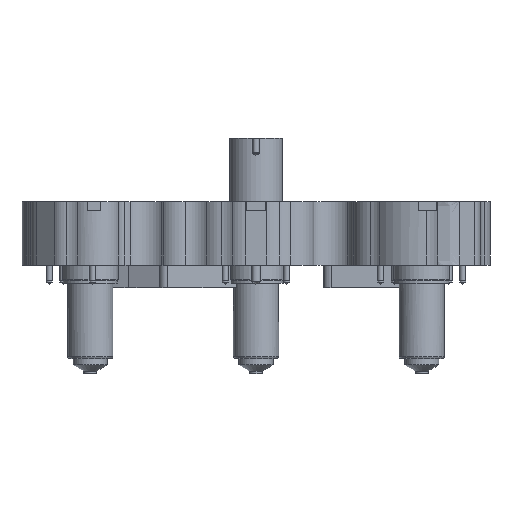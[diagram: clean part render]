
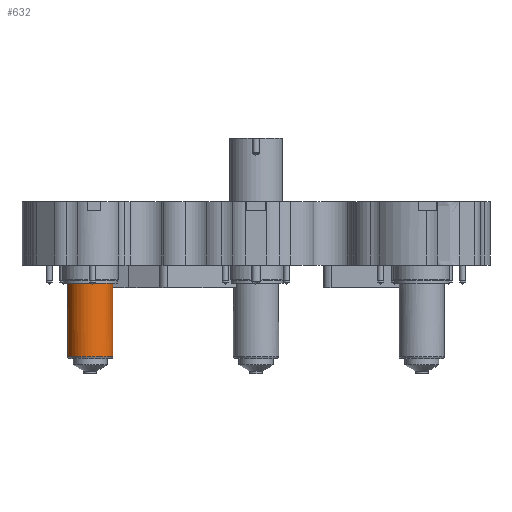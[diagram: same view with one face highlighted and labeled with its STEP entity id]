
A CAD part, front view. The second image highlights one B-rep face of the part: STEP entity #632.
In plain terms, the highlighted cylindrical face has radius 25 mm (diameter 50 mm), a full revolution.
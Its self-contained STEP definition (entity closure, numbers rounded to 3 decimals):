
#632=ADVANCED_FACE('',(#1481,#1482),#1483,.T.);
#1481=FACE_OUTER_BOUND('',#2588,.T.);
#1482=FACE_OUTER_BOUND('',#2589,.T.);
#1483=CYLINDRICAL_SURFACE('',#2590,25.0);
#2588=EDGE_LOOP('',(#4264,#4265,#4266,#4267));
#2589=EDGE_LOOP('',(#4268));
#2590=AXIS2_PLACEMENT_3D('',#4269,#4270,#4271);
#4264=ORIENTED_EDGE('',*,*,#6272,.F.);
#4265=ORIENTED_EDGE('',*,*,#6486,.F.);
#4266=ORIENTED_EDGE('',*,*,#6487,.F.);
#4267=ORIENTED_EDGE('',*,*,#6488,.F.);
#4268=ORIENTED_EDGE('',*,*,#6239,.T.);
#4269=CARTESIAN_POINT('',(-182.7,-182.7,-144.75));
#4270=DIRECTION('',(-0.0,0.0,-1.0));
#4271=DIRECTION('',(0.342,0.94,0.0));
#6239=EDGE_CURVE('',#7478,#7478,#7479,.T.);
#6272=EDGE_CURVE('',#7531,#7534,#7535,.F.);
#6486=EDGE_CURVE('',#7870,#7531,#7871,.T.);
#6487=EDGE_CURVE('',#7872,#7870,#7873,.F.);
#6488=EDGE_CURVE('',#7534,#7872,#7874,.F.);
#7478=VERTEX_POINT('',#9218);
#7479=CIRCLE('',#9219,25.0);
#7531=VERTEX_POINT('',#9282);
#7534=VERTEX_POINT('',#9286);
#7535=CIRCLE('',#9287,25.0);
#7870=VERTEX_POINT('',#9709);
#7871=LINE('',#9710,#9711);
#7872=VERTEX_POINT('',#9712);
#7873=CIRCLE('',#9713,25.0);
#7874=LINE('',#9714,#9715);
#9218=CARTESIAN_POINT('',(-182.7,-157.7,-156.));
#9219=AXIS2_PLACEMENT_3D('',#10876,#10877,#10878);
#9282=CARTESIAN_POINT('',(-182.117,-157.707,-75.0));
#9286=CARTESIAN_POINT('',(-167.082,-163.179,-75.0));
#9287=AXIS2_PLACEMENT_3D('',#10927,#10928,#10929);
#9709=CARTESIAN_POINT('',(-182.117,-157.707,-80.0));
#9710=CARTESIAN_POINT('',(-182.117,-157.707,-144.75));
#9711=VECTOR('',#11238,1.0);
#9712=CARTESIAN_POINT('',(-167.082,-163.179,-80.0));
#9713=AXIS2_PLACEMENT_3D('',#11239,#11240,#11241);
#9714=CARTESIAN_POINT('',(-167.082,-163.179,-144.75));
#9715=VECTOR('',#11242,1.0);
#10876=CARTESIAN_POINT('',(-182.7,-182.7,-156.));
#10877=DIRECTION('',(0.,0.,1.0));
#10878=DIRECTION('',(0.,1.0,0.));
#10927=CARTESIAN_POINT('',(-182.7,-182.7,-75.0));
#10928=DIRECTION('',(0.,0.,-1.0));
#10929=DIRECTION('',(-0.94,0.342,0.));
#11238=DIRECTION('',(0.0,0.0,1.0));
#11239=CARTESIAN_POINT('',(-182.7,-182.7,-80.0));
#11240=DIRECTION('',(0.,0.,-1.0));
#11241=DIRECTION('',(-0.342,-0.94,0.));
#11242=DIRECTION('',(0.0,0.0,1.0));
